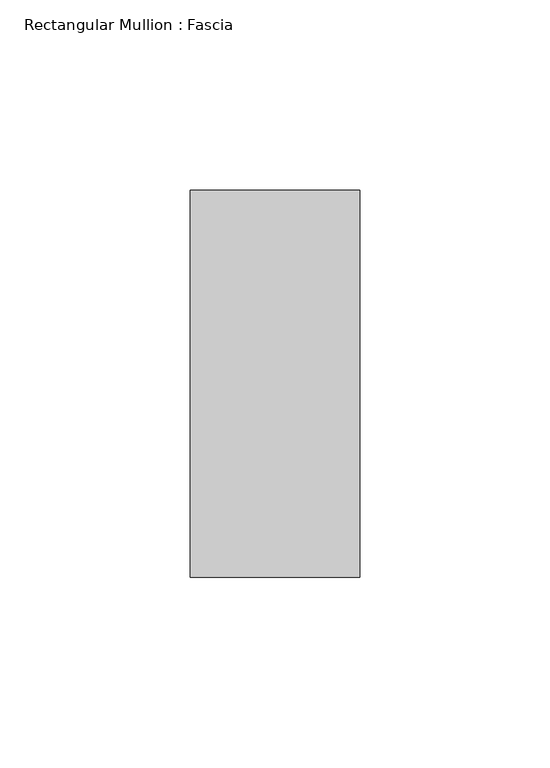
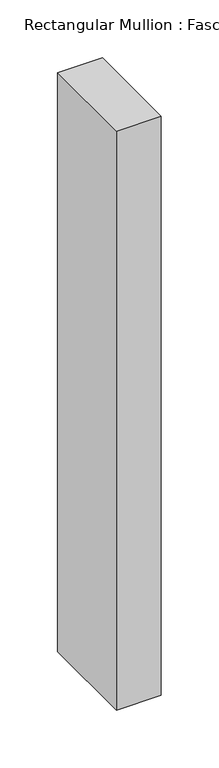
"""IFC4 building model written with IfcOpenShell, lengths in millimetres: member geometry, Rectangular Mullion : Fascia."""

import ifcopenshell
import ifcopenshell.guid

model = None  # the IFC model being written
_history = None  # IfcOwnerHistory: only IFC2X3 demands one
_inside = {}  # id of a spatial element -> (the spatial element, [elements in it])
_under = {}  # id of a project, library or spatial element -> (it, [spatial elements below it])
_declared = {}  # id of a project -> (the project, [libraries it declares])
_typed = {}  # id of a type object -> (the type object, [elements of that type])
_made_of = {}  # id of a material, layer set ... -> (it, [elements and type objects made of it])


def new_model(schema):
    """Start an empty IFC model of exactly this schema.

    Asked for "IFC4X3", IfcOpenShell would pick the latest addendum, in which some entities
    have other attributes; the version numbers below select the first issue.
    IFC2X3 requires an IfcOwnerHistory on every rooted entity: one is made here for all.
    """
    global model, _history
    if schema == "IFC4X3":
        model = ifcopenshell.file(schema_version=(4, 3, 0, 0))
    else:
        model = ifcopenshell.file(schema=schema)
    _inside.clear()
    _under.clear()
    _declared.clear()
    _typed.clear()
    _made_of.clear()
    _history = None
    if model.schema == "IFC2X3":
        org = make("IfcOrganization", Name="unknown")
        user = make(
            "IfcPersonAndOrganization",
            ThePerson=make("IfcPerson", FamilyName="unknown"),
            TheOrganization=org,
        )
        app = make(
            "IfcApplication",
            ApplicationDeveloper=org,
            Version="unknown",
            ApplicationFullName="unknown",
            ApplicationIdentifier="unknown",
        )
        _history = make(
            "IfcOwnerHistory",
            OwningUser=user,
            OwningApplication=app,
            ChangeAction="ADDED",
            CreationDate=0,
        )
    return model


def make(cls, **values):
    """One entity of the class cls with the attributes given. An attribute that is None is left unset."""
    return model.create_entity(
        cls, **{name: value for name, value in values.items() if value is not None}
    )


def rooted(cls, **values):
    """An entity with a GlobalId (a new one), such as an element, a storey or a relation."""
    return make(cls, GlobalId=ifcopenshell.guid.new(), OwnerHistory=_history, **values)


def si_unit(unit_type, name, prefix=None):
    """IfcSIUnit, for example si_unit("LENGTHUNIT", "METRE", prefix="MILLI")."""
    return make("IfcSIUnit", UnitType=unit_type, Prefix=prefix, Name=name)


def assignment(units):
    """IfcUnitAssignment: the units of a project."""
    return None if units is None else make("IfcUnitAssignment", Units=units)


def point(xyz):
    """IfcCartesianPoint."""
    return None if xyz is None else make("IfcCartesianPoint", Coordinates=xyz)


def direction(xyz):
    """IfcDirection."""
    return None if xyz is None else make("IfcDirection", DirectionRatios=xyz)


def frame(location, z_axis=None, x_axis=None):
    """IfcAxis2Placement3D, a coordinate frame: its origin and axes. An axis left out is left unset."""
    return make(
        "IfcAxis2Placement3D",
        Location=point(location),
        Axis=direction(z_axis),
        RefDirection=direction(x_axis),
    )


def origin():
    """The frame at (0, 0, 0) with its axes left unset."""
    return frame((0.0, 0.0, 0.0))


def place(relative_to, where):
    """IfcLocalPlacement: puts the frame where relative to a parent placement (None: the world)."""
    return make(
        "IfcLocalPlacement", PlacementRelTo=relative_to, RelativePlacement=where
    )


def context(
    kind, dimensions, precision=None, world=None, true_north=None, identifier=None
):
    """IfcGeometricRepresentationContext, for example the 3D "Model" context."""
    return make(
        "IfcGeometricRepresentationContext",
        ContextIdentifier=identifier,
        ContextType=kind,
        CoordinateSpaceDimension=dimensions,
        Precision=precision,
        WorldCoordinateSystem=world,
        TrueNorth=true_north,
    )


def project(units=None, contexts=None):
    """IfcProject with its units and contexts."""
    return rooted(
        "IfcProject",
        Name="project",
        RepresentationContexts=contexts,
        UnitsInContext=assignment(units),
    )


def spatial(cls, under=None, at=None, **own):
    """A site, building, storey or space (cls), placed at a placement, below another one or the project."""
    s = rooted(cls, ObjectPlacement=at, **own)
    if under is not None:
        _under.setdefault(under.id(), (under, []))[1].append(s)
    return s


def polyline(points):
    """IfcPolyline through the points."""
    return make("IfcPolyline", Points=[point(p) for p in points])


def outline(outer, holes=None, kind="AREA"):
    """IfcArbitraryClosedProfileDef: a profile drawn as a closed curve; with holes, ...WithVoids."""
    if holes is None:
        return make("IfcArbitraryClosedProfileDef", ProfileType=kind, OuterCurve=outer)
    return make(
        "IfcArbitraryProfileDefWithVoids",
        ProfileType=kind,
        OuterCurve=outer,
        InnerCurves=holes,
    )


def extrude(swept, where, along, depth):
    """IfcExtrudedAreaSolid: the profile swept, set in the frame where, extruded along a direction by depth."""
    return make(
        "IfcExtrudedAreaSolid",
        SweptArea=swept,
        Position=where,
        ExtrudedDirection=direction(along),
        Depth=depth,
    )


def shape(context_of_items, identifier, shape_type, items):
    """IfcShapeRepresentation: the items that make up one representation, for example the "Body"."""
    return make(
        "IfcShapeRepresentation",
        ContextOfItems=context_of_items,
        RepresentationIdentifier=identifier,
        RepresentationType=shape_type,
        Items=items,
    )


def source(mapping_origin, context_of_items, identifier, shape_type, items):
    """IfcRepresentationMap: a shape defined once, which mapped items show again and again."""
    return make(
        "IfcRepresentationMap",
        MappingOrigin=mapping_origin,
        MappedRepresentation=shape(context_of_items, identifier, shape_type, items),
    )


def transform(
    local_origin,
    x_axis=None,
    y_axis=None,
    z_axis=None,
    scale=None,
    scale2=None,
    scale3=None,
    uniform=True,
):
    """IfcCartesianTransformationOperator3D, or its non-uniform kind. x_axis, y_axis, z_axis: its Axis1, 2, 3."""
    if uniform:
        return make(
            "IfcCartesianTransformationOperator3D",
            Axis1=direction(x_axis),
            Axis2=direction(y_axis),
            LocalOrigin=point(local_origin),
            Scale=scale,
            Axis3=direction(z_axis),
        )
    return make(
        "IfcCartesianTransformationOperator3DnonUniform",
        Axis1=direction(x_axis),
        Axis2=direction(y_axis),
        LocalOrigin=point(local_origin),
        Scale=scale,
        Axis3=direction(z_axis),
        Scale2=scale2,
        Scale3=scale3,
    )


def mapped(mapping_source, mapping_target):
    """IfcMappedItem: shows the shape of a source again, moved by a transform."""
    return make(
        "IfcMappedItem", MappingSource=mapping_source, MappingTarget=mapping_target
    )


def made_of(thing, what):
    """Note that an element or type object is made of a material, layer set ...; save() writes the relation."""
    if what is not None:
        _made_of.setdefault(what.id(), (what, []))[1].append(thing)
    return thing


def element(
    cls,
    number,
    at=None,
    inside=None,
    cuts=None,
    type_object=None,
    material=None,
    context=None,
    identifier="Body",
    shape_type=None,
    held_by="IfcProductDefinitionShape",
    body=None,
    shapes=None,
    **own,
):
    """One element of the class cls, such as IfcWall. Its Tag is "e" and its number.

    at: its placement. inside: the storey or other place that contains it. cuts: it is an
    opening in that element (IfcRelVoidsElement). A single representation is given by context,
    identifier, shape_type and body (its items); several are given by shapes. held_by: the class
    of the entity that holds the representations. save() writes the other relations.
    """
    e = rooted(cls, Tag="e%d" % number, ObjectPlacement=at, **own)
    if body is not None:
        shapes = [shape(context, identifier, shape_type, body)]
    if shapes is not None:
        e.Representation = make(held_by, Representations=shapes)
    if inside is not None:
        _inside.setdefault(inside.id(), (inside, []))[1].append(e)
    if cuts is not None:
        rooted(
            "IfcRelVoidsElement", RelatingBuildingElement=cuts, RelatedOpeningElement=e
        )
    if type_object is not None:
        _typed.setdefault(type_object.id(), (type_object, []))[1].append(e)
    return made_of(e, material)


def aggregate(whole, parts):
    """IfcRelAggregates: a whole, such as a stair, and the parts it consists of."""
    return rooted("IfcRelAggregates", RelatingObject=whole, RelatedObjects=parts)


def save(model, path):
    """Write the relations noted so far, then the file.

    IfcRelAggregates (storeys below a building ...), IfcRelContainedInSpatialStructure (elements
    in a storey), IfcRelDefinesByType, IfcRelAssociatesMaterial and IfcRelDeclares: one each for
    every whole, place, type object, material and project.
    """
    for whole, parts in _under.values():
        aggregate(whole, parts)
    for where, things in _inside.values():
        rooted(
            "IfcRelContainedInSpatialStructure",
            RelatedElements=things,
            RelatingStructure=where,
        )
    for kind, things in _typed.values():
        rooted("IfcRelDefinesByType", RelatedObjects=things, RelatingType=kind)
    for what, things in _made_of.values():
        rooted("IfcRelAssociatesMaterial", RelatedObjects=things, RelatingMaterial=what)
    for by, libraries in _declared.values():
        rooted("IfcRelDeclares", RelatingContext=by, RelatedDefinitions=libraries)
    model.write(path)


def rectangular_mullion_fascia_9a07afea(model_context):
    return source(origin(), model_context, "Body", "SweptSolid", [
        extrude(outline(polyline([(0.0, 114.3), (0.0, 12.7), (-44.45, 12.7), (-44.45, 114.3), (0.0, 114.3)])), frame((0.0, 0.0, -609.6), z_axis=(0.0, 0.0, 1.0), x_axis=(1.0, 0.0, 0.0)), (0.0, 0.0, 1.0), 609.6),
    ])


if __name__ == "__main__":
    model = new_model("IFC4")
    model_context = context("Model", 3, world=origin())
    ifc_project = project(units=[si_unit("LENGTHUNIT", "METRE", prefix="MILLI")], contexts=[model_context])
    site = spatial("IfcSite", under=ifc_project)
    building = spatial("IfcBuilding", under=site)
    placement = place(None, origin())
    rectangular_mullion_fascia_shape = rectangular_mullion_fascia_9a07afea(model_context)
    element("IfcMember", 1, ObjectType="Rectangular Mullion : Fascia", at=placement, inside=building, context=model_context, shape_type="MappedRepresentation", body=[
        mapped(rectangular_mullion_fascia_shape, transform((0.0, 0.0, 0.0), x_axis=(1.0, 0.0, 0.0), y_axis=(0.0, 1.0, 0.0), z_axis=(0.0, 0.0, 1.0))),
    ])
    save(model, "model.ifc")
